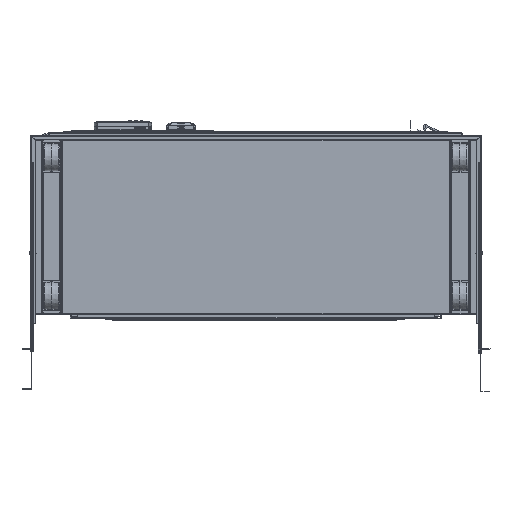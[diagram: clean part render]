
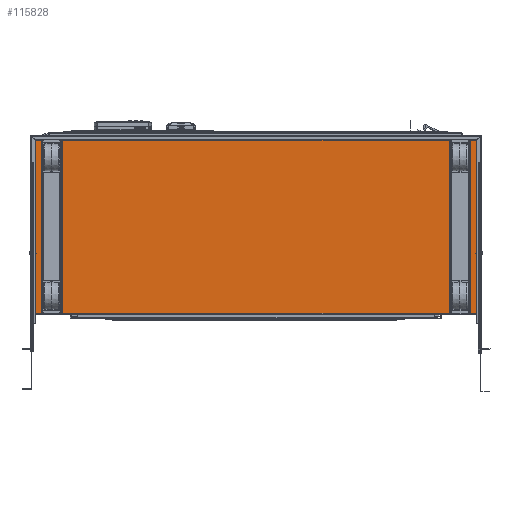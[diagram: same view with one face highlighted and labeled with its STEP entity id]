
A CAD part, front view. The second image highlights one B-rep face of the part: STEP entity #115828.
In plain terms, the highlighted planar face has unit normal (0, -1, 0) as drawn and (0, 0, -1) by its records, which use the part's own axes.
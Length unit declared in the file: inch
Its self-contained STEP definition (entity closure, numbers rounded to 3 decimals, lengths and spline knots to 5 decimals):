
#3180 = EDGE_CURVE ( 'NONE', #73138, #190324, #9761, .T. ) ;
#7005 = ORIENTED_EDGE ( 'NONE', *, *, #81031, .F. ) ;
#9106 = CARTESIAN_POINT ( 'NONE',  ( 16.7423, 53.5098, 0. ) ) ;
#9761 = LINE ( 'NONE', #71428, #197446 ) ;
#10003 = DIRECTION ( 'NONE',  ( 1., 0., 0. ) ) ;
#13560 = CARTESIAN_POINT ( 'NONE',  ( 35.63685, 53.5098, 0. ) ) ;
#13776 = FACE_OUTER_BOUND ( 'NONE', #95611, .T. ) ;
#14779 = ORIENTED_EDGE ( 'NONE', *, *, #84900, .F. ) ;
#15981 = VECTOR ( 'NONE', #25537, 39.37008 ) ;
#19255 = CARTESIAN_POINT ( 'NONE',  ( 35.45785, 53.5098, 0. ) ) ;
#25537 = DIRECTION ( 'NONE',  ( 0., -1., 0. ) ) ;
#25789 = CARTESIAN_POINT ( 'NONE',  ( 35.4865, 48.9799, 0. ) ) ;
#26042 = EDGE_CURVE ( 'NONE', #75078, #79643, #90761, .T. ) ;
#27763 = CARTESIAN_POINT ( 'NONE',  ( 35.45785, 5.79375, 0. ) ) ;
#31162 = LINE ( 'NONE', #39799, #65619 ) ;
#31545 = DIRECTION ( 'NONE',  ( 0., 1., 0. ) ) ;
#32239 = EDGE_CURVE ( 'NONE', #98070, #51396, #95355, .T. ) ;
#34429 = DIRECTION ( 'NONE',  ( -1., 0., 0. ) ) ;
#39799 = CARTESIAN_POINT ( 'NONE',  ( 16.65705, 5.79375, 0. ) ) ;
#40217 = LINE ( 'NONE', #25789, #57229 ) ;
#45196 = CARTESIAN_POINT ( 'NONE',  ( 35.45785, 53.5098, 0. ) ) ;
#45383 = CARTESIAN_POINT ( 'NONE',  ( 35.4865, 53.5098, 0. ) ) ;
#45407 = DIRECTION ( 'NONE',  ( -1., 0., 0. ) ) ;
#45691 = CARTESIAN_POINT ( 'NONE',  ( 16.7423, 53.5098, 0. ) ) ;
#51396 = VERTEX_POINT ( 'NONE', #177878 ) ;
#55581 = DIRECTION ( 'NONE',  ( 0., 1., 0. ) ) ;
#56407 = VECTOR ( 'NONE', #55581, 39.37008 ) ;
#57229 = VECTOR ( 'NONE', #88577, 39.37008 ) ;
#57411 = LINE ( 'NONE', #180853, #15981 ) ;
#58421 = VECTOR ( 'NONE', #31545, 39.37008 ) ;
#59940 = ORIENTED_EDGE ( 'NONE', *, *, #84299, .F. ) ;
#62250 = LINE ( 'NONE', #98247, #150387 ) ;
#65619 = VECTOR ( 'NONE', #10003, 39.37008 ) ;
#67881 = EDGE_CURVE ( 'NONE', #98070, #159682, #31162, .T. ) ;
#68686 = EDGE_CURVE ( 'NONE', #194709, #171359, #107870, .T. ) ;
#71183 = VECTOR ( 'NONE', #157727, 39.37008 ) ;
#71428 = CARTESIAN_POINT ( 'NONE',  ( 16.7423, 53.5098, 0. ) ) ;
#73138 = VERTEX_POINT ( 'NONE', #99501 ) ;
#75078 = VERTEX_POINT ( 'NONE', #45383 ) ;
#79643 = VERTEX_POINT ( 'NONE', #45196 ) ;
#80960 = DIRECTION ( 'NONE',  ( 0., 1., 0. ) ) ;
#81031 = EDGE_CURVE ( 'NONE', #188820, #73138, #127432, .T. ) ;
#84257 = ORIENTED_EDGE ( 'NONE', *, *, #3180, .F. ) ;
#84299 = EDGE_CURVE ( 'NONE', #171359, #75078, #40217, .T. ) ;
#84900 = EDGE_CURVE ( 'NONE', #79643, #188820, #127235, .T. ) ;
#88577 = DIRECTION ( 'NONE',  ( 0., 1., 0. ) ) ;
#88933 = DIRECTION ( 'NONE',  ( 0., 0., -1. ) ) ;
#89766 = CARTESIAN_POINT ( 'NONE',  ( 16.7423, 5.79375, 0. ) ) ;
#90761 = LINE ( 'NONE', #13560, #98720 ) ;
#92963 = DIRECTION ( 'NONE',  ( -1., 0., 0. ) ) ;
#95355 = LINE ( 'NONE', #127187, #58421 ) ;
#95611 = EDGE_LOOP ( 'NONE', ( #149082, #121233, #104505, #84257, #7005, #14779, #114994, #59940, #165569, #194520, #192652, #197401 ) ) ;
#96078 = LINE ( 'NONE', #45691, #71183 ) ;
#97651 = CARTESIAN_POINT ( 'NONE',  ( 13.69742, 53.5382, 0. ) ) ;
#98070 = VERTEX_POINT ( 'NONE', #169276 ) ;
#98247 = CARTESIAN_POINT ( 'NONE',  ( 13.69742, 5.76536, 0. ) ) ;
#98720 = VECTOR ( 'NONE', #45407, 39.37008 ) ;
#99501 = CARTESIAN_POINT ( 'NONE',  ( 16.7423, 53.5382, 0. ) ) ;
#104505 = ORIENTED_EDGE ( 'NONE', *, *, #183732, .F. ) ;
#107870 = LINE ( 'NONE', #138730, #180046 ) ;
#114787 = EDGE_CURVE ( 'NONE', #179527, #179274, #62250, .T. ) ;
#114994 = ORIENTED_EDGE ( 'NONE', *, *, #26042, .F. ) ;
#115828 = ADVANCED_FACE ( 'NONE', ( #13776 ), #171057, .T. ) ;
#116180 = CARTESIAN_POINT ( 'NONE',  ( 35.45785, 5.76536, 0. ) ) ;
#121233 = ORIENTED_EDGE ( 'NONE', *, *, #32239, .T. ) ;
#127187 = CARTESIAN_POINT ( 'NONE',  ( 16.71366, 48.9799, 0. ) ) ;
#127235 = LINE ( 'NONE', #19255, #152654 ) ;
#127432 = LINE ( 'NONE', #97651, #174107 ) ;
#131128 = DIRECTION ( 'NONE',  ( 0., -1., 0. ) ) ;
#132906 = CARTESIAN_POINT ( 'NONE',  ( 16.7423, 5.76536, 0. ) ) ;
#136139 = EDGE_CURVE ( 'NONE', #179527, #194709, #196504, .T. ) ;
#138730 = CARTESIAN_POINT ( 'NONE',  ( 35.63685, 5.79375, 0. ) ) ;
#138998 = CARTESIAN_POINT ( 'NONE',  ( 35.45785, 53.5382, 0. ) ) ;
#143690 = EDGE_CURVE ( 'NONE', #159682, #179274, #57411, .T. ) ;
#149082 = ORIENTED_EDGE ( 'NONE', *, *, #67881, .F. ) ;
#150387 = VECTOR ( 'NONE', #34429, 39.37008 ) ;
#152654 = VECTOR ( 'NONE', #80960, 39.37008 ) ;
#153635 = CARTESIAN_POINT ( 'NONE',  ( 13.69742, 48.9799, 0. ) ) ;
#157727 = DIRECTION ( 'NONE',  ( -1., 0., 0. ) ) ;
#159682 = VERTEX_POINT ( 'NONE', #89766 ) ;
#162304 = CARTESIAN_POINT ( 'NONE',  ( 35.4865, 5.79375, 0. ) ) ;
#165569 = ORIENTED_EDGE ( 'NONE', *, *, #68686, .F. ) ;
#169276 = CARTESIAN_POINT ( 'NONE',  ( 16.71366, 5.79375, 0. ) ) ;
#171057 = PLANE ( 'NONE',  #173852 ) ;
#171359 = VERTEX_POINT ( 'NONE', #162304 ) ;
#173852 = AXIS2_PLACEMENT_3D ( 'NONE', #153635, #88933, #92963 ) ;
#174107 = VECTOR ( 'NONE', #174733, 39.37008 ) ;
#174733 = DIRECTION ( 'NONE',  ( -1., 0., 0. ) ) ;
#177878 = CARTESIAN_POINT ( 'NONE',  ( 16.71366, 53.5098, 0. ) ) ;
#179274 = VERTEX_POINT ( 'NONE', #132906 ) ;
#179527 = VERTEX_POINT ( 'NONE', #116180 ) ;
#180046 = VECTOR ( 'NONE', #201483, 39.37008 ) ;
#180853 = CARTESIAN_POINT ( 'NONE',  ( 16.7423, 5.79375, 0. ) ) ;
#183732 = EDGE_CURVE ( 'NONE', #190324, #51396, #96078, .T. ) ;
#188820 = VERTEX_POINT ( 'NONE', #138998 ) ;
#190324 = VERTEX_POINT ( 'NONE', #9106 ) ;
#192652 = ORIENTED_EDGE ( 'NONE', *, *, #114787, .T. ) ;
#194520 = ORIENTED_EDGE ( 'NONE', *, *, #136139, .F. ) ;
#194709 = VERTEX_POINT ( 'NONE', #199239 ) ;
#196504 = LINE ( 'NONE', #27763, #56407 ) ;
#197401 = ORIENTED_EDGE ( 'NONE', *, *, #143690, .F. ) ;
#197446 = VECTOR ( 'NONE', #131128, 39.37008 ) ;
#199239 = CARTESIAN_POINT ( 'NONE',  ( 35.45785, 5.79375, 0. ) ) ;
#201483 = DIRECTION ( 'NONE',  ( 1., 0., 0. ) ) ;
